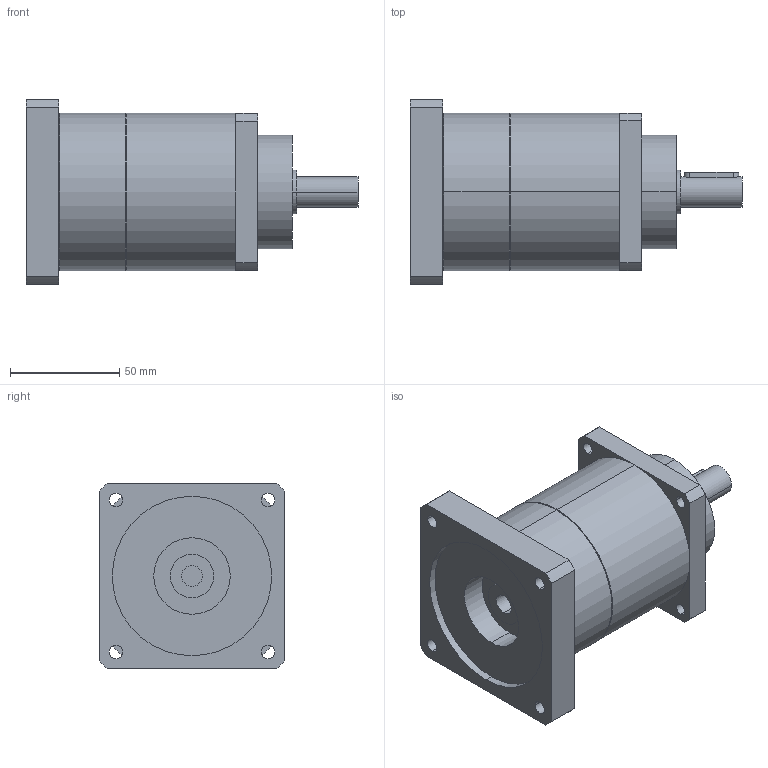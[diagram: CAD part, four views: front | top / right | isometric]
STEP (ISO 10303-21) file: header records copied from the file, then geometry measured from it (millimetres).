
FILE_DESCRIPTION(('CoCreate Modeling STEP Export'),'2;1');
FILE_NAME('GPT75_ig-9-12-16-20-25-28-35-40-50-70-100_14_B5T_9.52_P36.stp','2014-08-27T13:43:33',(''),(''),'CoCreate Modeling STEP processor for AP214 (Solid Model)','CoCreate Modeling 16.00C 25-Feb-2009 (C) Parametric Technology GmbH','');
FILE_SCHEMA(('AUTOMOTIVE_DESIGN { 1 0 10303 214 1 1 1 1 }'));
Length unit declared in the file: millimetre
Products named in the file (2): GPT75_ig-9-12-16-20-25-28-35-40-50-70-100_14_B5T_9.52_P36
Assembly tree (1 placements, depth 2):
  GPT75_ig-9-12-16-20-25-28-35-40-50-70-100_14_B5T_9.52_P36
    GPT75_ig-9-12-16-20-25-28-35-40-50-70-100_14_B5T_9.52_P36
Bounding box: 152 x 85 x 85 mm (x, y, z)
Volume: 498693.6 mm3; surface area: 51916.7 mm2
Topology: 1 solids, 1 shells, 77 faces, 194 edges, 129 vertices
Faces by surface type: cylinder 46, plane 27, cone 4
Entity records: 2484 total; most frequent: CARTESIAN_POINT 719, ORIENTED_EDGE 388, DIRECTION 320, EDGE_CURVE 194, VERTEX_POINT 129, AXIS2_PLACEMENT_3D 118, EDGE_LOOP 103, VECTOR 84
